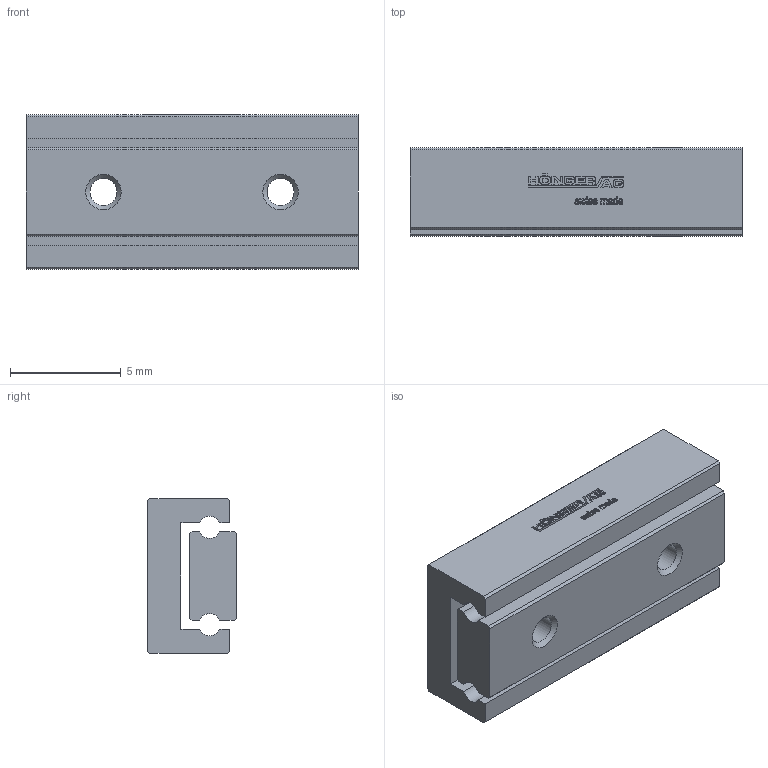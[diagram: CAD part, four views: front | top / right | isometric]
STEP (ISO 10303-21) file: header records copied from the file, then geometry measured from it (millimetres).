
FILE_DESCRIPTION(/* description */ ('STEP AP214'),/* implementation_level */ '2;1');
FILE_NAME(/* name */ 'NDN 05-15.10(0)',/* time_stamp */ '2025-04-16T17:07:08+02:00',/* author */ ('License CC BY-ND 4.0'),/* organization */ ('CADENAS'),/* preprocessor_version */ 'ST-DEVELOPER v19.3',/* originating_system */ 'PARTsolutions',/* authorisation */ ' ');
FILE_SCHEMA (('AUTOMOTIVE_DESIGN {1 0 10303 214 3 1 1}'));
Length unit declared in the file: millimetre
Products named in the file (3): NDN 05-15.10(0); NDN 05-15.10_1; NDN 05-15.10_2
Assembly tree (2 placements, depth 2):
  NDN 05-15.10(0)
    NDN 05-15.10_1
    NDN 05-15.10_2
Bounding box: 15 x 4 x 7 mm (x, y, z)
Volume: 334.4 mm3; surface area: 647.8 mm2
Topology: 2 solids, 2 shells, 507 faces, 1424 edges, 948 vertices
Faces by surface type: cylinder 300, plane 201, cone 6
Full cylindrical faces by diameter (mm): 1.221 x4
Entity records: 16615 total; most frequent: DIRECTION 3038, CARTESIAN_POINT 2868, ORIENTED_EDGE 2824, EDGE_CURVE 1412, AXIS2_PLACEMENT_3D 1116, VERTEX_POINT 946, LINE 806, VECTOR 806
